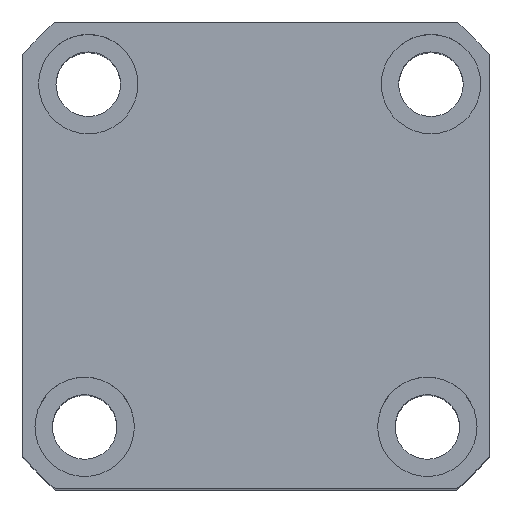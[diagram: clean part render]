
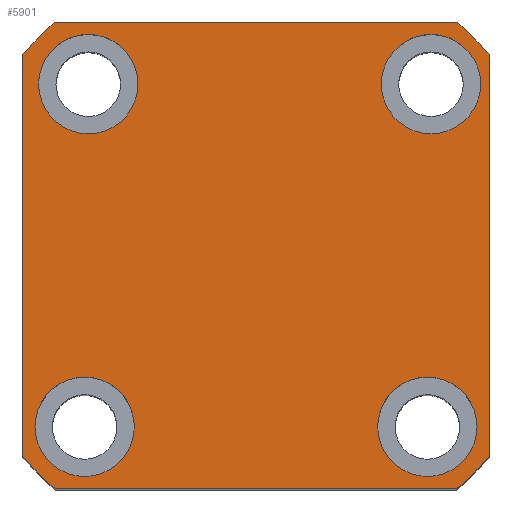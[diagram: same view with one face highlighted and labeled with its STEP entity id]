
A CAD part, top view. The second image highlights one B-rep face of the part: STEP entity #5901.
In plain terms, the highlighted planar face has unit normal (0, 0, 1) as drawn and (0, 0, -1) by its records, which use the part's own axes.
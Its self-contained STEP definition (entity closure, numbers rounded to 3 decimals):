
#29 = DIRECTION ( 'NONE',  ( 1., 0., 0. ) ) ;
#141 = ORIENTED_EDGE ( 'NONE', *, *, #13868, .F. ) ;
#261 = CARTESIAN_POINT ( 'NONE',  ( 40.435, -47., 0. ) ) ;
#374 = DIRECTION ( 'NONE',  ( -1., 0., 0. ) ) ;
#443 = CARTESIAN_POINT ( 'NONE',  ( 0., 0., 0. ) ) ;
#467 = CIRCLE ( 'NONE', #2045, 10. ) ;
#470 = DIRECTION ( 'NONE',  ( 0., 0., 1. ) ) ;
#474 = DIRECTION ( 'NONE',  ( 1., 0., 0. ) ) ;
#609 = CARTESIAN_POINT ( 'NONE',  ( 35.23, -34.5, 0. ) ) ;
#753 = AXIS2_PLACEMENT_3D ( 'NONE', #12694, #2161, #14410 ) ;
#812 = EDGE_CURVE ( 'NONE', #2690, #13960, #17904, .T. ) ;
#877 = DIRECTION ( 'NONE',  ( -1., 0., 0. ) ) ;
#976 = EDGE_CURVE ( 'NONE', #5895, #2889, #21380, .T. ) ;
#1102 = ORIENTED_EDGE ( 'NONE', *, *, #13197, .F. ) ;
#1192 = CIRCLE ( 'NONE', #12382, 10. ) ;
#1693 = CARTESIAN_POINT ( 'NONE',  ( -34.5, 34.5, 0. ) ) ;
#1731 = VERTEX_POINT ( 'NONE', #12791 ) ;
#1851 = CARTESIAN_POINT ( 'NONE',  ( -24.5, 34.5, 0. ) ) ;
#1971 = CARTESIAN_POINT ( 'NONE',  ( -47., 40.435, 0. ) ) ;
#2005 = LINE ( 'NONE', #3541, #18329 ) ;
#2045 = AXIS2_PLACEMENT_3D ( 'NONE', #6533, #6680, #6764 ) ;
#2150 = FACE_OUTER_BOUND ( 'NONE', #18461, .T. ) ;
#2161 = DIRECTION ( 'NONE',  ( 0., 0., 1. ) ) ;
#2298 = EDGE_CURVE ( 'NONE', #11917, #17640, #467, .T. ) ;
#2357 = ORIENTED_EDGE ( 'NONE', *, *, #11860, .F. ) ;
#2377 = DIRECTION ( 'NONE',  ( -1., 0., 0. ) ) ;
#2616 = ORIENTED_EDGE ( 'NONE', *, *, #12140, .F. ) ;
#2690 = VERTEX_POINT ( 'NONE', #21914 ) ;
#2712 = FACE_BOUND ( 'NONE', #18718, .T. ) ;
#2889 = VERTEX_POINT ( 'NONE', #16994 ) ;
#2901 = ORIENTED_EDGE ( 'NONE', *, *, #7747, .F. ) ;
#2971 = CARTESIAN_POINT ( 'NONE',  ( -47., -40.435, 0. ) ) ;
#3175 = ORIENTED_EDGE ( 'NONE', *, *, #20316, .F. ) ;
#3250 = LINE ( 'NONE', #15190, #7380 ) ;
#3434 = ORIENTED_EDGE ( 'NONE', *, *, #5845, .F. ) ;
#3481 = DIRECTION ( 'NONE',  ( -1., 0., 0. ) ) ;
#3541 = CARTESIAN_POINT ( 'NONE',  ( -47., 47., 0. ) ) ;
#3708 = ORIENTED_EDGE ( 'NONE', *, *, #4057, .F. ) ;
#3794 = DIRECTION ( 'NONE',  ( 1., 0., 0. ) ) ;
#3990 = VERTEX_POINT ( 'NONE', #18526 ) ;
#4047 = DIRECTION ( 'NONE',  ( 0., 0., 1. ) ) ;
#4057 = EDGE_CURVE ( 'NONE', #5803, #1731, #4582, .T. ) ;
#4131 = AXIS2_PLACEMENT_3D ( 'NONE', #443, #470, #474 ) ;
#4582 = CIRCLE ( 'NONE', #753, 62. ) ;
#4934 = CARTESIAN_POINT ( 'NONE',  ( -40.435, 47., 0. ) ) ;
#5296 = CIRCLE ( 'NONE', #13270, 10. ) ;
#5803 = VERTEX_POINT ( 'NONE', #2971 ) ;
#5845 = EDGE_CURVE ( 'NONE', #2889, #8551, #3250, .T. ) ;
#5895 = VERTEX_POINT ( 'NONE', #261 ) ;
#5901 = ADVANCED_FACE ( 'NONE', ( #2712, #12067, #6844, #11527, #2150 ), #16953, .F. ) ;
#6533 = CARTESIAN_POINT ( 'NONE',  ( 35.23, -34.5, 0. ) ) ;
#6680 = DIRECTION ( 'NONE',  ( 0., 0., -1. ) ) ;
#6691 = DIRECTION ( 'NONE',  ( 0., 0., -1. ) ) ;
#6764 = DIRECTION ( 'NONE',  ( -1., 0., 0. ) ) ;
#6807 = CARTESIAN_POINT ( 'NONE',  ( 47., 40.435, 0. ) ) ;
#6823 = CIRCLE ( 'NONE', #20288, 62. ) ;
#6844 = FACE_BOUND ( 'NONE', #21680, .T. ) ;
#6846 = DIRECTION ( 'NONE',  ( 0., 0., 1. ) ) ;
#6905 = ORIENTED_EDGE ( 'NONE', *, *, #14763, .F. ) ;
#7380 = VECTOR ( 'NONE', #11823, 1000. ) ;
#7747 = EDGE_CURVE ( 'NONE', #8551, #13330, #6823, .T. ) ;
#8043 = CARTESIAN_POINT ( 'NONE',  ( 44.5, 34.5, 0. ) ) ;
#8232 = VERTEX_POINT ( 'NONE', #8043 ) ;
#8551 = VERTEX_POINT ( 'NONE', #6807 ) ;
#9149 = LINE ( 'NONE', #9894, #17775 ) ;
#9183 = DIRECTION ( 'NONE',  ( 0., 0., -1. ) ) ;
#9762 = AXIS2_PLACEMENT_3D ( 'NONE', #12560, #14270, #3794 ) ;
#9893 = AXIS2_PLACEMENT_3D ( 'NONE', #1693, #13957, #3481 ) ;
#9894 = CARTESIAN_POINT ( 'NONE',  ( -47., 47., 0. ) ) ;
#10026 = AXIS2_PLACEMENT_3D ( 'NONE', #17059, #6691, #18779 ) ;
#10520 = CIRCLE ( 'NONE', #9893, 10. ) ;
#10619 = AXIS2_PLACEMENT_3D ( 'NONE', #609, #12905, #2377 ) ;
#10792 = CIRCLE ( 'NONE', #10619, 10. ) ;
#10911 = DIRECTION ( 'NONE',  ( 0., 0., -1. ) ) ;
#11068 = CIRCLE ( 'NONE', #21696, 10. ) ;
#11079 = VECTOR ( 'NONE', #29, 1000. ) ;
#11326 = ORIENTED_EDGE ( 'NONE', *, *, #2298, .F. ) ;
#11417 = DIRECTION ( 'NONE',  ( 0., 0., -1. ) ) ;
#11523 = EDGE_LOOP ( 'NONE', ( #22398, #2616 ) ) ;
#11527 = FACE_BOUND ( 'NONE', #11523, .T. ) ;
#11669 = DIRECTION ( 'NONE',  ( -1., 0., 0. ) ) ;
#11823 = DIRECTION ( 'NONE',  ( 0., 1., 0. ) ) ;
#11860 = EDGE_CURVE ( 'NONE', #13744, #3990, #21825, .T. ) ;
#11917 = VERTEX_POINT ( 'NONE', #17128 ) ;
#12067 = FACE_BOUND ( 'NONE', #16596, .T. ) ;
#12140 = EDGE_CURVE ( 'NONE', #8232, #19905, #1192, .T. ) ;
#12314 = DIRECTION ( 'NONE',  ( 0., -1., 0. ) ) ;
#12382 = AXIS2_PLACEMENT_3D ( 'NONE', #21162, #10911, #374 ) ;
#12560 = CARTESIAN_POINT ( 'NONE',  ( 0., 0., 0. ) ) ;
#12694 = CARTESIAN_POINT ( 'NONE',  ( 0., 0., 0. ) ) ;
#12766 = CARTESIAN_POINT ( 'NONE',  ( 40.435, 47., 0. ) ) ;
#12791 = CARTESIAN_POINT ( 'NONE',  ( -40.435, -47., 0. ) ) ;
#12905 = DIRECTION ( 'NONE',  ( 0., 0., -1. ) ) ;
#13197 = EDGE_CURVE ( 'NONE', #17839, #5803, #2005, .T. ) ;
#13270 = AXIS2_PLACEMENT_3D ( 'NONE', #21664, #11417, #877 ) ;
#13330 = VERTEX_POINT ( 'NONE', #12766 ) ;
#13712 = CARTESIAN_POINT ( 'NONE',  ( 45.23, -34.5, 0. ) ) ;
#13744 = VERTEX_POINT ( 'NONE', #22245 ) ;
#13868 = EDGE_CURVE ( 'NONE', #13960, #2690, #10520, .T. ) ;
#13957 = DIRECTION ( 'NONE',  ( 0., 0., -1. ) ) ;
#13960 = VERTEX_POINT ( 'NONE', #1851 ) ;
#14270 = DIRECTION ( 'NONE',  ( 0., 0., 1. ) ) ;
#14410 = DIRECTION ( 'NONE',  ( 1., 0., 0. ) ) ;
#14510 = CARTESIAN_POINT ( 'NONE',  ( 0., 0., 0. ) ) ;
#14763 = EDGE_CURVE ( 'NONE', #17640, #11917, #10792, .T. ) ;
#15190 = CARTESIAN_POINT ( 'NONE',  ( 47., 47., 0. ) ) ;
#15568 = EDGE_CURVE ( 'NONE', #19905, #8232, #11068, .T. ) ;
#15821 = ORIENTED_EDGE ( 'NONE', *, *, #15860, .F. ) ;
#15860 = EDGE_CURVE ( 'NONE', #3990, #13744, #5296, .T. ) ;
#16200 = DIRECTION ( 'NONE',  ( 1., 0., 0. ) ) ;
#16592 = CARTESIAN_POINT ( 'NONE',  ( 24.5, 34.5, 0. ) ) ;
#16596 = EDGE_LOOP ( 'NONE', ( #15821, #2357 ) ) ;
#16621 = ORIENTED_EDGE ( 'NONE', *, *, #812, .F. ) ;
#16711 = LINE ( 'NONE', #20823, #11079 ) ;
#16953 = PLANE ( 'NONE',  #9762 ) ;
#16994 = CARTESIAN_POINT ( 'NONE',  ( 47., -40.435, 0. ) ) ;
#17059 = CARTESIAN_POINT ( 'NONE',  ( -33.77, -34.5, 0. ) ) ;
#17128 = CARTESIAN_POINT ( 'NONE',  ( 25.23, -34.5, 0. ) ) ;
#17194 = CARTESIAN_POINT ( 'NONE',  ( 0., 0., 0. ) ) ;
#17305 = CARTESIAN_POINT ( 'NONE',  ( -34.5, 34.5, 0. ) ) ;
#17640 = VERTEX_POINT ( 'NONE', #13712 ) ;
#17739 = ORIENTED_EDGE ( 'NONE', *, *, #20037, .F. ) ;
#17775 = VECTOR ( 'NONE', #11669, 1000. ) ;
#17839 = VERTEX_POINT ( 'NONE', #1971 ) ;
#17904 = CIRCLE ( 'NONE', #21937, 10. ) ;
#18225 = DIRECTION ( 'NONE',  ( 0., 0., -1. ) ) ;
#18229 = DIRECTION ( 'NONE',  ( -1., 0., 0. ) ) ;
#18329 = VECTOR ( 'NONE', #12314, 1000. ) ;
#18461 = EDGE_LOOP ( 'NONE', ( #2901, #3434, #19186, #3175, #3708, #1102, #22131, #17739 ) ) ;
#18526 = CARTESIAN_POINT ( 'NONE',  ( -43.77, -34.5, 0. ) ) ;
#18718 = EDGE_LOOP ( 'NONE', ( #11326, #6905 ) ) ;
#18728 = EDGE_CURVE ( 'NONE', #21419, #17839, #20222, .T. ) ;
#18779 = DIRECTION ( 'NONE',  ( -1., 0., 0. ) ) ;
#18927 = DIRECTION ( 'NONE',  ( 1., 0., 0. ) ) ;
#19186 = ORIENTED_EDGE ( 'NONE', *, *, #976, .F. ) ;
#19511 = CARTESIAN_POINT ( 'NONE',  ( 34.5, 34.5, 0. ) ) ;
#19620 = AXIS2_PLACEMENT_3D ( 'NONE', #14510, #4047, #16200 ) ;
#19905 = VERTEX_POINT ( 'NONE', #16592 ) ;
#20037 = EDGE_CURVE ( 'NONE', #13330, #21419, #9149, .T. ) ;
#20222 = CIRCLE ( 'NONE', #19620, 62. ) ;
#20288 = AXIS2_PLACEMENT_3D ( 'NONE', #17194, #6846, #18927 ) ;
#20316 = EDGE_CURVE ( 'NONE', #1731, #5895, #16711, .T. ) ;
#20823 = CARTESIAN_POINT ( 'NONE',  ( -47., -47., 0. ) ) ;
#21162 = CARTESIAN_POINT ( 'NONE',  ( 34.5, 34.5, 0. ) ) ;
#21217 = DIRECTION ( 'NONE',  ( -1., 0., 0. ) ) ;
#21380 = CIRCLE ( 'NONE', #4131, 62. ) ;
#21419 = VERTEX_POINT ( 'NONE', #4934 ) ;
#21664 = CARTESIAN_POINT ( 'NONE',  ( -33.77, -34.5, 0. ) ) ;
#21680 = EDGE_LOOP ( 'NONE', ( #16621, #141 ) ) ;
#21696 = AXIS2_PLACEMENT_3D ( 'NONE', #19511, #9183, #21217 ) ;
#21825 = CIRCLE ( 'NONE', #10026, 10. ) ;
#21914 = CARTESIAN_POINT ( 'NONE',  ( -44.5, 34.5, 0. ) ) ;
#21937 = AXIS2_PLACEMENT_3D ( 'NONE', #17305, #18225, #18229 ) ;
#22131 = ORIENTED_EDGE ( 'NONE', *, *, #18728, .F. ) ;
#22245 = CARTESIAN_POINT ( 'NONE',  ( -23.77, -34.5, 0. ) ) ;
#22398 = ORIENTED_EDGE ( 'NONE', *, *, #15568, .F. ) ;
